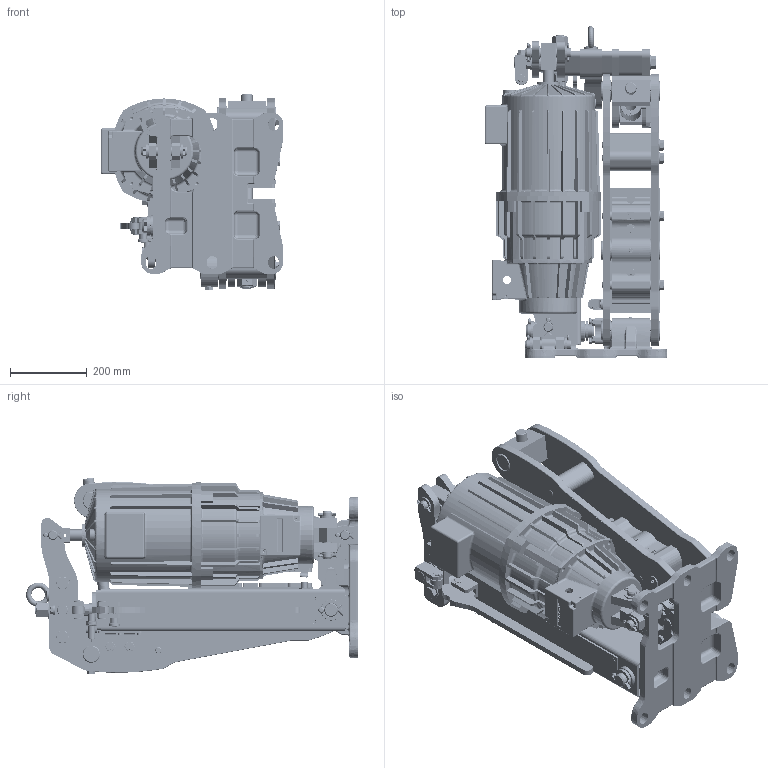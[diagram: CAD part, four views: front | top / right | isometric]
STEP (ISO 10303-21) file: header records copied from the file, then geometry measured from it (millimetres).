
FILE_DESCRIPTION((''),'2;1');
FILE_NAME('DX_280_FRAME_TH_459_464_463_ASM','2024-02-15T16:24:53',('FRMA'),(''),'CREO PARAMETRIC BY PTC INC, 2022364','CREO PARAMETRIC BY PTC INC, 2022364','');
FILE_SCHEMA(('CONFIG_CONTROL_DESIGN','SHAPE_APPEARANCE_LAYERS_GROUPS'));
Products named in the file (17): 9474_420_003_000000_AF0_1_1_1_1; 9474_420_003_000000_AF0_1_1_2_1; 9474_420_003_000000_AF0_1_1_3_1; 9474_420_003_000000_AF0_1_1_4_1; 9474_420_003_000000_AF0_1_1_5_1; 9474_420_003_000000_AF0_1_1_6_1; 9474_420_003_000000_AF0_1_1_7_1; DX_280_FRAME_ASM; 2758_090_007_000000_1_1_1_1; 2758_090_007_000000_1_1_2_1; 2758_090_007_000000_1_1_3_1; 2758_090_007_000000_1_1_4_1; 2758_090_007_000000_1_1_5_1; 2758_090_007_000000_1_1_ASM_1_ASM; DX280_BRACKET_TH705_ASM; TH_459_464_463; DX_280_FRAME_TH_459_464_463_ASM
Assembly tree (16 placements, depth 4):
  DX_280_FRAME_TH_459_464_463_ASM
    DX_280_FRAME_ASM
      9474_420_003_000000_AF0_1_1_1_1
      9474_420_003_000000_AF0_1_1_2_1
      9474_420_003_000000_AF0_1_1_3_1
      9474_420_003_000000_AF0_1_1_4_1
      9474_420_003_000000_AF0_1_1_5_1
      9474_420_003_000000_AF0_1_1_6_1
      9474_420_003_000000_AF0_1_1_7_1
    DX280_BRACKET_TH705_ASM
      2758_090_007_000000_1_1_ASM_1_ASM
        2758_090_007_000000_1_1_1_1
        2758_090_007_000000_1_1_2_1
        2758_090_007_000000_1_1_3_1
        2758_090_007_000000_1_1_4_1
        2758_090_007_000000_1_1_5_1
    TH_459_464_463
Bounding box: 475.5 x 865 x 512.48 mm (x, y, z)
Volume: 33665581.4 mm3; surface area: 5091727 mm2
Topology: 13 solids, 170 shells, 9074 faces, 24910 edges, 16266 vertices
Faces by surface type: plane 4520, cylinder 2413, cone 1185, torus 661, bspline 209, extrusion 60, sphere 26
Entity records: 447670 total; most frequent: CARTESIAN_POINT 95562, ORIENTED_EDGE 49308, DIRECTION 46663, PRESENTATION_STYLE_ASSIGNMENT 31515, STYLED_ITEM 24931, CURVE_STYLE 24848, EDGE_CURVE 24788, AXIS2_PLACEMENT_3D 17279
